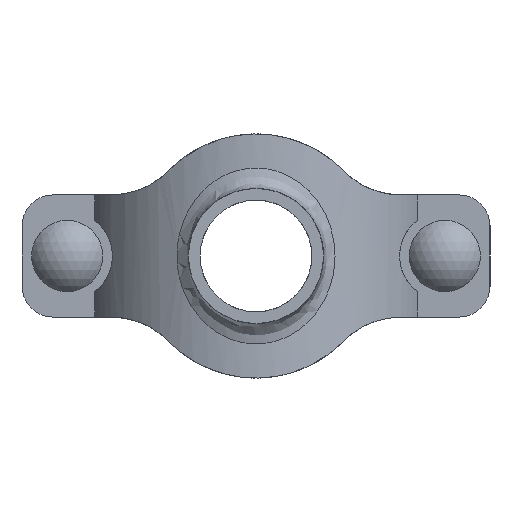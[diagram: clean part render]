
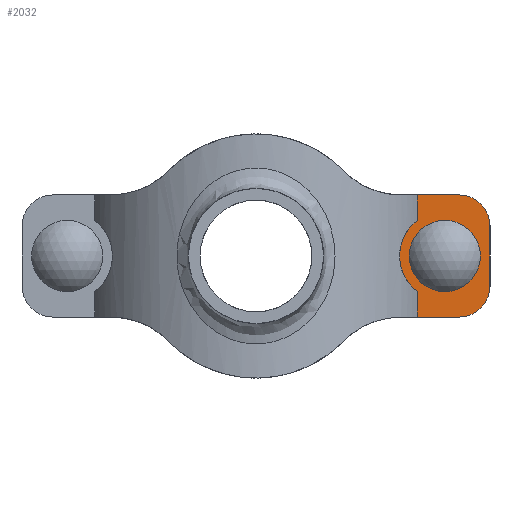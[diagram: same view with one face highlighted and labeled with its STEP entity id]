
A CAD part, front view. The second image highlights one B-rep face of the part: STEP entity #2032.
In plain terms, the highlighted planar face has unit normal (0, -1, 0) as drawn and (0, 1, 0) by its records, which use the part's own axes.
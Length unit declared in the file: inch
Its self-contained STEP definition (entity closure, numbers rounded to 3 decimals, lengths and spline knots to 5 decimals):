
#135=FACE_BOUND('',#361,.T.);
#230=FACE_OUTER_BOUND('',#360,.T.);
#360=EDGE_LOOP('',(#1693,#1694,#1695,#1696,#1697,#1698,#1699,#1700));
#361=EDGE_LOOP('',(#1701,#1702,#1703,#1704));
#474=LINE('',#3888,#624);
#477=LINE('',#4026,#627);
#488=LINE('',#4066,#638);
#492=LINE('',#4077,#642);
#510=LINE('',#4327,#660);
#511=LINE('',#4330,#661);
#512=LINE('',#4332,#662);
#624=VECTOR('',#2664,0.3937);
#627=VECTOR('',#2675,0.3937);
#638=VECTOR('',#2718,0.3937);
#642=VECTOR('',#2730,0.3937);
#660=VECTOR('',#2804,0.3937);
#661=VECTOR('',#2807,0.3937);
#662=VECTOR('',#2808,0.3937);
#738=CIRCLE('',#2242,0.555);
#744=CIRCLE('',#2254,0.2875);
#746=CIRCLE('',#2258,0.2875);
#763=CIRCLE('',#2289,0.38);
#764=CIRCLE('',#2290,0.38);
#885=VERTEX_POINT('',#3867);
#886=VERTEX_POINT('',#3868);
#887=VERTEX_POINT('',#3887);
#900=VERTEX_POINT('',#4024);
#909=VERTEX_POINT('',#4056);
#910=VERTEX_POINT('',#4057);
#913=VERTEX_POINT('',#4065);
#915=VERTEX_POINT('',#4071);
#945=VERTEX_POINT('',#4325);
#946=VERTEX_POINT('',#4326);
#947=VERTEX_POINT('',#4328);
#948=VERTEX_POINT('',#4331);
#1127=EDGE_CURVE('',#887,#886,#474,.T.);
#1141=EDGE_CURVE('',#885,#900,#477,.T.);
#1142=EDGE_CURVE('',#885,#886,#738,.T.);
#1156=EDGE_CURVE('',#909,#910,#744,.T.);
#1160=EDGE_CURVE('',#910,#913,#488,.T.);
#1163=EDGE_CURVE('',#913,#915,#746,.T.);
#1166=EDGE_CURVE('',#915,#909,#492,.T.);
#1206=EDGE_CURVE('',#945,#946,#510,.T.);
#1207=EDGE_CURVE('',#947,#945,#763,.T.);
#1208=EDGE_CURVE('',#887,#947,#511,.T.);
#1209=EDGE_CURVE('',#948,#900,#512,.T.);
#1210=EDGE_CURVE('',#946,#948,#764,.T.);
#1693=ORIENTED_EDGE('',*,*,#1206,.F.);
#1694=ORIENTED_EDGE('',*,*,#1207,.F.);
#1695=ORIENTED_EDGE('',*,*,#1208,.F.);
#1696=ORIENTED_EDGE('',*,*,#1127,.T.);
#1697=ORIENTED_EDGE('',*,*,#1142,.F.);
#1698=ORIENTED_EDGE('',*,*,#1141,.T.);
#1699=ORIENTED_EDGE('',*,*,#1209,.F.);
#1700=ORIENTED_EDGE('',*,*,#1210,.F.);
#1701=ORIENTED_EDGE('',*,*,#1163,.T.);
#1702=ORIENTED_EDGE('',*,*,#1166,.T.);
#1703=ORIENTED_EDGE('',*,*,#1156,.T.);
#1704=ORIENTED_EDGE('',*,*,#1160,.T.);
#1821=PLANE('',#2288);
#2032=ADVANCED_FACE('',(#230,#135),#1821,.F.);
#2242=AXIS2_PLACEMENT_3D('',#4028,#2678,#2679);
#2254=AXIS2_PLACEMENT_3D('',#4058,#2710,#2711);
#2258=AXIS2_PLACEMENT_3D('',#4072,#2723,#2724);
#2288=AXIS2_PLACEMENT_3D('',#4324,#2802,#2803);
#2289=AXIS2_PLACEMENT_3D('',#4329,#2805,#2806);
#2290=AXIS2_PLACEMENT_3D('',#4333,#2809,#2810);
#2664=DIRECTION('',(0.,0.,-1.));
#2675=DIRECTION('',(0.,0.,-1.));
#2678=DIRECTION('center_axis',(0.,-1.,0.));
#2679=DIRECTION('ref_axis',(1.,0.,0.));
#2710=DIRECTION('center_axis',(0.,-1.,0.));
#2711=DIRECTION('ref_axis',(-1.,0.,0.));
#2718=DIRECTION('',(0.,0.,-1.));
#2723=DIRECTION('center_axis',(0.,-1.,0.));
#2724=DIRECTION('ref_axis',(1.,0.,0.));
#2730=DIRECTION('',(0.,0.,1.));
#2802=DIRECTION('center_axis',(0.,-1.,0.));
#2803=DIRECTION('ref_axis',(1.,0.,0.));
#2804=DIRECTION('',(0.,0.,-1.));
#2805=DIRECTION('center_axis',(0.,-1.,0.));
#2806=DIRECTION('ref_axis',(-1.,0.,0.));
#2807=DIRECTION('',(-1.,0.,0.));
#2808=DIRECTION('',(1.,0.,0.));
#2809=DIRECTION('center_axis',(0.,-1.,0.));
#2810=DIRECTION('ref_axis',(0.,0.,-1.));
#3867=CARTESIAN_POINT('',(-1.98202,1.,-0.44022));
#3868=CARTESIAN_POINT('',(-1.98202,1.,0.44022));
#3887=CARTESIAN_POINT('',(-1.98202,1.,0.75));
#3888=CARTESIAN_POINT('',(-1.98202,1.,0.));
#4024=CARTESIAN_POINT('',(-1.98202,1.,-0.75));
#4026=CARTESIAN_POINT('',(-1.98202,1.,0.));
#4028=CARTESIAN_POINT('Origin',(-2.32,1.,0.));
#4056=CARTESIAN_POINT('',(-2.0325,1.,0.0925));
#4057=CARTESIAN_POINT('',(-2.6075,1.,0.0925));
#4058=CARTESIAN_POINT('Origin',(-2.32,1.,0.0925));
#4065=CARTESIAN_POINT('',(-2.6075,1.,-0.0925));
#4066=CARTESIAN_POINT('',(-2.6075,1.,-0.04625));
#4071=CARTESIAN_POINT('',(-2.0325,1.,-0.0925));
#4072=CARTESIAN_POINT('Origin',(-2.32,1.,-0.0925));
#4077=CARTESIAN_POINT('',(-2.0325,1.,0.04625));
#4324=CARTESIAN_POINT('Origin',(-2.875,1.,0.));
#4325=CARTESIAN_POINT('',(-2.875,1.,0.37));
#4326=CARTESIAN_POINT('',(-2.875,1.,-0.37));
#4327=CARTESIAN_POINT('',(-2.875,1.,-0.185));
#4328=CARTESIAN_POINT('',(-2.495,1.,0.75));
#4329=CARTESIAN_POINT('Origin',(-2.495,1.,0.37));
#4330=CARTESIAN_POINT('',(-2.685,1.,0.75));
#4331=CARTESIAN_POINT('',(-2.495,1.,-0.75));
#4332=CARTESIAN_POINT('',(-2.33018,1.,-0.75));
#4333=CARTESIAN_POINT('Origin',(-2.495,1.,-0.37));
